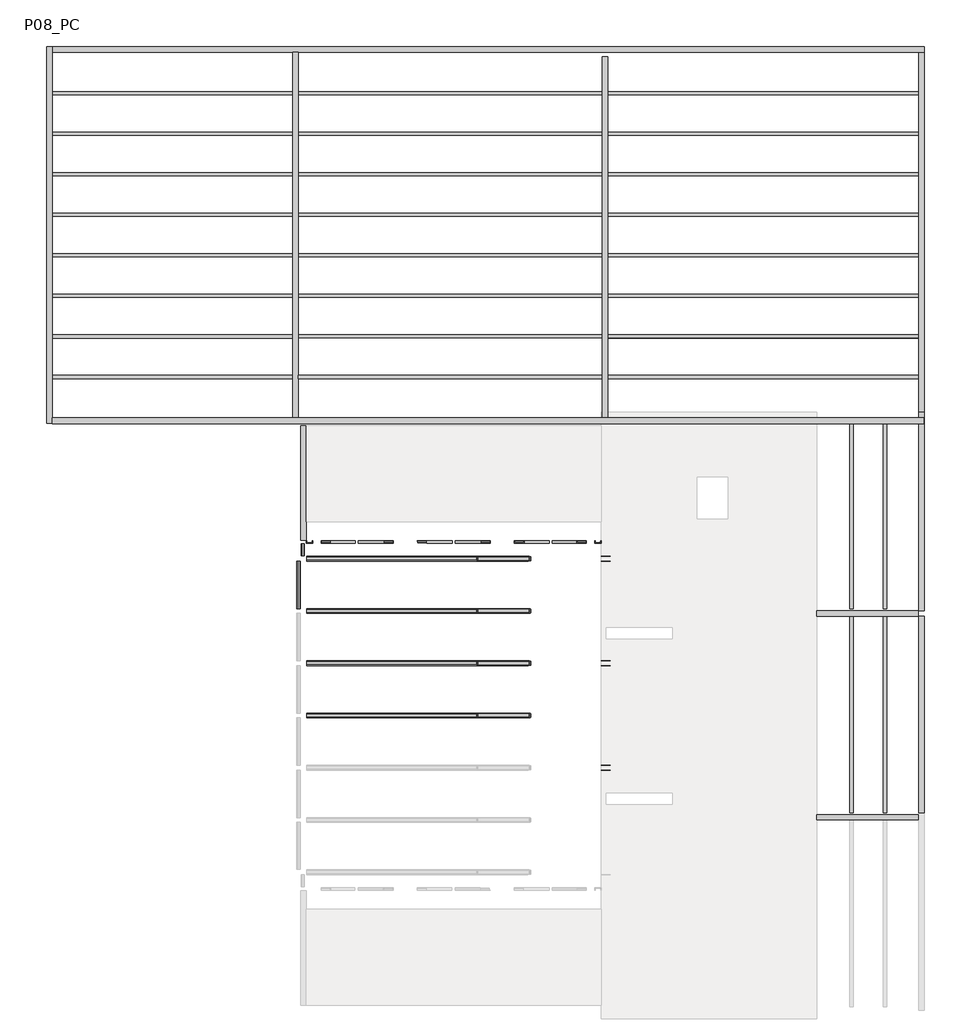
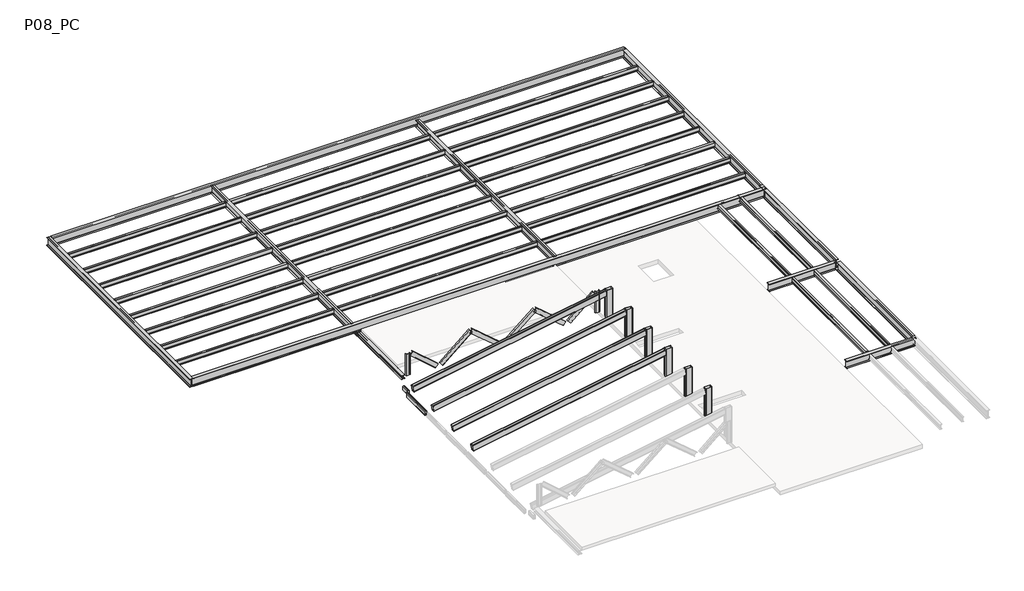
# One storey, part 2 of 2: 52 beams, 8 columns.
"""IFC4 building model written with IfcOpenShell, lengths in millimetres."""

from ifc_helpers import new_model, si_unit, origin, place, context, project, spatial, transform, mapped, element, save
from components import heb_180x180_6466fbd6, heb_180x180_753583c2, m_hss_rectangular_hss_200x100_5f17627f, m_hss_rectangular_hss_200x100_5a28828e, m_hss_rectangular_hss_300x150_f2dc2021, ub_universal_beams_ipe_400x180_227b6903, ub_universal_beams_ipe_400x180_42daf140, ub_universal_beams_ipe_400x180_a54351ab, ub_universal_beams_ipe_400x180_9dca1a58, ub_universal_beams_ipe_400x180_03f0e6ba, ub_universal_beams_ipe_400x180_5f841415, ub_universal_beams_ipe360x170_77c0ac8e, ub_universal_beams_ipe360x170_d35104d3, ub_universal_beams_ipe360x170_eaf81fbb, ub_universal_beams_ipe360x170_971bfe62, ub_universal_beams_ub240x100x40_e8e8a7e6, ub_universal_beams_ub240x100x40_b49092f3, ub_universal_beams_ub240x100x40_dda5167d, ub_universal_beams_ub240x100x40_5ad6f9c0, ub_universal_beams_ub240x100x40_2001c877, upn200x75_e305e8eb, upn200x75_de5bd99d, upn200x75_fda01a95, upn200x75_ef32aa81, rhs_rectangular_hollow_section_column_300x150x5_0rhs_4ea1d480, upn_200x75_9e4be795

model = new_model("IFC4")

# Units and contexts
model_context = context("Model", 3, world=origin())
ifc_project = project(units=[si_unit("LENGTHUNIT", "METRE", prefix="MILLI")], contexts=[model_context])

# Site, building, storey
site = spatial("IfcSite", under=ifc_project)
building = spatial("IfcBuilding", under=site)
storey = spatial("IfcBuildingStorey", under=building, Name="P08_PC", Elevation=37410.0)

# Beams
placement = place(None, origin())
heb_180x180_shape = heb_180x180_6466fbd6(model_context)
element("IfcBeam", 1, ObjectType="M_HP-Bearing Pile : HEB 180x180", at=placement, inside=storey, context=model_context, shape_type="MappedRepresentation", body=[
    mapped(heb_180x180_shape, transform((-18515.2932454, 13889.9904668, 37770.0), x_axis=(1.0, 0.0, 0.0), y_axis=(0.0, 1.0, 0.0), z_axis=(0.0, 0.0, 1.0))),
])
heb_180x180_2_shape = heb_180x180_753583c2(model_context)
element("IfcBeam", 2, ObjectType="M_HP-Bearing Pile : HEB 180x180", at=placement, inside=storey, context=model_context, shape_type="MappedRepresentation", body=[
    mapped(heb_180x180_2_shape, transform((-23130.357866, 11881.3970024, 37770.0), x_axis=(0.0, 1.0, 0.0), y_axis=(-1.0, 0.0, 0.0), z_axis=(0.0, 0.0, 1.0))),
])
m_hss_rectangular_hss_200x100_shape = m_hss_rectangular_hss_200x100_5f17627f(model_context)
element("IfcBeam", 3, ObjectType="M_HSS Rectangular : HSS 200x100", at=placement, inside=storey, context=model_context, shape_type="MappedRepresentation", body=[
    mapped(m_hss_rectangular_hss_200x100_shape, transform((-23290.3172019, 8679.8399046, 37310.0), x_axis=(-3.182446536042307e-08, -0.9999999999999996, 0.0), y_axis=(0.9999999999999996, -3.182446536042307e-08, 0.0), z_axis=(0.0, 0.0, 1.0))),
])
m_hss_rectangular_hss_200x100_2_shape = m_hss_rectangular_hss_200x100_5a28828e(model_context)
element("IfcBeam", 4, ObjectType="M_HSS Rectangular : HSS 200x100", at=placement, inside=storey, context=model_context, shape_type="MappedRepresentation", body=[
    mapped(m_hss_rectangular_hss_200x100_2_shape, transform((-23160.3171618, 9792.3965304, 37310.0), x_axis=(0.0, 1.0, 0.0), y_axis=(-1.0, 0.0, 0.0), z_axis=(0.0, 0.0, 1.0))),
])
m_hss_rectangular_hss_300x150_shape = m_hss_rectangular_hss_300x150_f2dc2021(model_context)
element("IfcBeam", 5, ObjectType="M_HSS Rectangular : HSS 300x150", at=placement, inside=storey, context=model_context, shape_type="MappedRepresentation", body=[
    mapped(m_hss_rectangular_hss_300x150_shape, transform((-18389.3310242, 9489.4137599, 38322.2684738), x_axis=(0.9848768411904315, -2.6177525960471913e-09, 0.1732559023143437), y_axis=(2.6579491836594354e-09, 1.0, 0.0), z_axis=(-0.17325590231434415, 4.6050538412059e-10, 0.9848768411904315))),
])
element("IfcBeam", 6, ObjectType="M_HSS Rectangular : HSS 300x150", at=placement, inside=storey, context=model_context, shape_type="MappedRepresentation", body=[
    mapped(m_hss_rectangular_hss_300x150_shape, transform((-18389.3310242, 6156.0806779, 38322.2684738), x_axis=(0.9848768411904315, -2.6177525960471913e-09, 0.1732559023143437), y_axis=(2.6579491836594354e-09, 1.0, 0.0), z_axis=(-0.17325590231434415, 4.6050538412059e-10, 0.9848768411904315))),
])
element("IfcBeam", 7, ObjectType="M_HSS Rectangular : HSS 300x150", at=placement, inside=storey, context=model_context, shape_type="MappedRepresentation", body=[
    mapped(m_hss_rectangular_hss_300x150_shape, transform((-18389.3310242, 4489.896059, 38322.2684738), x_axis=(0.9848768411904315, -2.6177525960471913e-09, 0.1732559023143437), y_axis=(2.6579491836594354e-09, 1.0, 0.0), z_axis=(-0.17325590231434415, 4.6050538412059e-10, 0.9848768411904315))),
])
element("IfcBeam", 8, ObjectType="M_HSS Rectangular : HSS 300x150", at=placement, inside=storey, context=model_context, shape_type="MappedRepresentation", body=[
    mapped(m_hss_rectangular_hss_300x150_shape, transform((-18389.3310242, 7822.7472201, 38322.2684738), x_axis=(0.9848768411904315, -2.6177525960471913e-09, 0.1732559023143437), y_axis=(2.6579491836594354e-09, 1.0, 0.0), z_axis=(-0.17325590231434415, 4.6050538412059e-10, 0.9848768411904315))),
])
ub_universal_beams_ipe_400x180_shape = ub_universal_beams_ipe_400x180_227b6903(model_context)
element("IfcBeam", 9, ObjectType="UB-Universal Beams : IPE 400x180", at=placement, inside=storey, context=model_context, shape_type="MappedRepresentation", body=[
    mapped(ub_universal_beams_ipe_400x180_shape, transform((-3415.7426146, 19865.1782084, 38060.0), x_axis=(0.0, -1.0, 0.0), y_axis=(1.0, 0.0, 0.0), z_axis=(0.0, 0.0, 1.0))),
])
ub_universal_beams_ipe_400x180_2_shape = ub_universal_beams_ipe_400x180_42daf140(model_context)
element("IfcBeam", 10, ObjectType="UB-Universal Beams : IPE 400x180", at=placement, inside=storey, context=model_context, shape_type="MappedRepresentation", body=[
    mapped(ub_universal_beams_ipe_400x180_2_shape, transform((-17328.0382717, 25739.8286321, 38060.0), x_axis=(1.0, 0.0, 0.0), y_axis=(0.0, 1.0, 0.0), z_axis=(0.0, 0.0, 1.0))),
])
ub_universal_beams_ipe_400x180_3_shape = ub_universal_beams_ipe_400x180_a54351ab(model_context)
element("IfcBeam", 11, ObjectType="UB-Universal Beams : IPE 400x180", at=placement, inside=storey, context=model_context, shape_type="MappedRepresentation", body=[
    mapped(ub_universal_beams_ipe_400x180_3_shape, transform((-31240.3339287, 19814.9095495, 38060.0), x_axis=(0.0, -1.0, 0.0), y_axis=(1.0, 0.0, 0.0), z_axis=(0.0, 0.0, 1.0))),
])
ub_universal_beams_ipe_400x180_4_shape = ub_universal_beams_ipe_400x180_9dca1a58(model_context)
element("IfcBeam", 12, ObjectType="UB-Universal Beams : IPE 400x180", at=placement, inside=storey, context=model_context, shape_type="MappedRepresentation", body=[
    mapped(ub_universal_beams_ipe_400x180_4_shape, transform((-3415.7426146, 4565.4193662, 38060.0), x_axis=(0.0, -1.0, 0.0), y_axis=(1.0, 0.0, 0.0), z_axis=(0.0, 0.0, 1.0))),
])
ub_universal_beams_ipe_400x180_5_shape = ub_universal_beams_ipe_400x180_03f0e6ba(model_context)
element("IfcBeam", 13, ObjectType="UB-Universal Beams : IPE 400x180", at=placement, inside=storey, context=model_context, shape_type="MappedRepresentation", body=[
    mapped(ub_universal_beams_ipe_400x180_5_shape, transform((-17328.0382717, 13889.9904668, 38060.0), x_axis=(1.0, 0.0, 0.0), y_axis=(0.0, 1.0, 0.0), z_axis=(0.0, 0.0, 1.0))),
])
ub_universal_beams_ipe_400x180_6_shape = ub_universal_beams_ipe_400x180_5f841415(model_context)
element("IfcBeam", 14, ObjectType="UB-Universal Beams : IPE 400x180", at=placement, inside=storey, context=model_context, shape_type="MappedRepresentation", body=[
    mapped(ub_universal_beams_ipe_400x180_6_shape, transform((-3415.7426146, 10865.4735715, 38060.0), x_axis=(0.0, 1.0, 0.0), y_axis=(-1.0, 0.0, 0.0), z_axis=(0.0, 0.0, 1.0))),
])
ub_universal_beams_ipe360x170_shape = ub_universal_beams_ipe360x170_77c0ac8e(model_context)
element("IfcBeam", 15, ObjectType="UB-Universal Beams : IPE360x170", at=placement, inside=storey, context=model_context, shape_type="MappedRepresentation", body=[
    mapped(ub_universal_beams_ipe360x170_shape, transform((-23390.3339287, 19952.788817, 38080.0), x_axis=(0.0, -1.0, 0.0), y_axis=(1.0, 0.0, 0.0), z_axis=(0.0, 0.0, 1.0))),
])
ub_universal_beams_ipe360x170_2_shape = ub_universal_beams_ipe360x170_d35104d3(model_context)
element("IfcBeam", 16, ObjectType="UB-Universal Beams : IPE360x170", at=placement, inside=storey, context=model_context, shape_type="MappedRepresentation", body=[
    mapped(ub_universal_beams_ipe360x170_2_shape, transform((-13515.29311, 19837.922056, 38080.0), x_axis=(0.0, -1.0, 0.0), y_axis=(1.0, 0.0, 0.0), z_axis=(0.0, 0.0, 1.0))),
])
ub_universal_beams_ipe360x170_3_shape = ub_universal_beams_ipe360x170_eaf81fbb(model_context)
element("IfcBeam", 17, ObjectType="UB-Universal Beams : IPE360x170", at=placement, inside=storey, context=model_context, shape_type="MappedRepresentation", body=[
    mapped(ub_universal_beams_ipe360x170_3_shape, transform((-5171.880656, 1240.0775206, 38080.0), x_axis=(1.0, 0.0, 0.0), y_axis=(0.0, 1.0, 0.0), z_axis=(0.0, 0.0, 1.0))),
])
ub_universal_beams_ipe360x170_4_shape = ub_universal_beams_ipe360x170_971bfe62(model_context)
element("IfcBeam", 18, ObjectType="UB-Universal Beams : IPE360x170", at=placement, inside=storey, context=model_context, shape_type="MappedRepresentation", body=[
    mapped(ub_universal_beams_ipe360x170_4_shape, transform((-5090.5179756, 7740.4193662, 38080.0), x_axis=(1.0, 0.0, 0.0), y_axis=(0.0, 1.0, 0.0), z_axis=(0.0, 0.0, 1.0))),
])
ub_universal_beams_ub240x100x40_shape = ub_universal_beams_ub240x100x40_e8e8a7e6(model_context)
element("IfcBeam", 19, ObjectType="UB-Universal Beams : UB240x100x40", at=placement, inside=storey, context=model_context, shape_type="MappedRepresentation", body=[
    mapped(ub_universal_beams_ub240x100x40_shape, transform((-5648.154421, 10940.60625, 38140.0), x_axis=(-1.2454712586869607e-09, -1.0, 0.0), y_axis=(1.0, -1.2454712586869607e-09, 0.0), z_axis=(0.0, 0.0, 1.0))),
])
element("IfcBeam", 20, ObjectType="UB-Universal Beams : UB240x100x40", at=placement, inside=storey, context=model_context, shape_type="MappedRepresentation", body=[
    mapped(ub_universal_beams_ub240x100x40_shape, transform((-4581.4877543, 10940.60625, 38140.0), x_axis=(-1.2454711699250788e-09, -1.0, 0.0), y_axis=(1.0, -1.2454711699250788e-09, 0.0), z_axis=(0.0, 0.0, 1.0))),
])
ub_universal_beams_ub240x100x40_2_shape = ub_universal_beams_ub240x100x40_b49092f3(model_context)
element("IfcBeam", 21, ObjectType="UB-Universal Beams : UB240x100x40", at=placement, inside=storey, context=model_context, shape_type="MappedRepresentation", body=[
    mapped(ub_universal_beams_ub240x100x40_2_shape, transform((-18452.8135193, 15288.5987554, 38140.0), x_axis=(1.0, 0.0, 0.0), y_axis=(0.0, 1.0, 0.0), z_axis=(0.0, 0.0, 1.0))),
])
element("IfcBeam", 22, ObjectType="UB-Universal Beams : UB240x100x40", at=placement, inside=storey, context=model_context, shape_type="MappedRepresentation", body=[
    mapped(ub_universal_beams_ub240x100x40_2_shape, transform((-18452.8135193, 16581.8996886, 38140.0), x_axis=(1.0, 0.0, 0.0), y_axis=(0.0, 1.0, 0.0), z_axis=(0.0, 0.0, 1.0))),
])
element("IfcBeam", 23, ObjectType="UB-Universal Beams : UB240x100x40", at=placement, inside=storey, context=model_context, shape_type="MappedRepresentation", body=[
    mapped(ub_universal_beams_ub240x100x40_2_shape, transform((-18452.8135193, 17875.2006217, 38140.0), x_axis=(1.0, 0.0, 0.0), y_axis=(0.0, 1.0, 0.0), z_axis=(0.0, 0.0, 1.0))),
])
element("IfcBeam", 24, ObjectType="UB-Universal Beams : UB240x100x40", at=placement, inside=storey, context=model_context, shape_type="MappedRepresentation", body=[
    mapped(ub_universal_beams_ub240x100x40_2_shape, transform((-18452.8135193, 19168.5015549, 38140.0), x_axis=(1.0, 0.0, 0.0), y_axis=(0.0, 1.0, 0.0), z_axis=(0.0, 0.0, 1.0))),
])
element("IfcBeam", 25, ObjectType="UB-Universal Beams : UB240x100x40", at=placement, inside=storey, context=model_context, shape_type="MappedRepresentation", body=[
    mapped(ub_universal_beams_ub240x100x40_2_shape, transform((-18452.8135193, 20461.802488, 38140.0), x_axis=(1.0, 0.0, 0.0), y_axis=(0.0, 1.0, 0.0), z_axis=(0.0, 0.0, 1.0))),
])
element("IfcBeam", 26, ObjectType="UB-Universal Beams : UB240x100x40", at=placement, inside=storey, context=model_context, shape_type="MappedRepresentation", body=[
    mapped(ub_universal_beams_ub240x100x40_2_shape, transform((-18452.8135193, 21755.1034212, 38140.0), x_axis=(1.0, 0.0, 0.0), y_axis=(0.0, 1.0, 0.0), z_axis=(0.0, 0.0, 1.0))),
])
element("IfcBeam", 27, ObjectType="UB-Universal Beams : UB240x100x40", at=placement, inside=storey, context=model_context, shape_type="MappedRepresentation", body=[
    mapped(ub_universal_beams_ub240x100x40_2_shape, transform((-18452.8135193, 23048.4043543, 38140.0), x_axis=(1.0, 0.0, 0.0), y_axis=(0.0, 1.0, 0.0), z_axis=(0.0, 0.0, 1.0))),
])
element("IfcBeam", 28, ObjectType="UB-Universal Beams : UB240x100x40", at=placement, inside=storey, context=model_context, shape_type="MappedRepresentation", body=[
    mapped(ub_universal_beams_ub240x100x40_2_shape, transform((-18452.8135193, 24341.7052875, 38140.0), x_axis=(1.0, 0.0, 0.0), y_axis=(0.0, 1.0, 0.0), z_axis=(0.0, 0.0, 1.0))),
])
ub_universal_beams_ub240x100x40_3_shape = ub_universal_beams_ub240x100x40_dda5167d(model_context)
element("IfcBeam", 29, ObjectType="UB-Universal Beams : UB240x100x40", at=placement, inside=storey, context=model_context, shape_type="MappedRepresentation", body=[
    mapped(ub_universal_beams_ub240x100x40_3_shape, transform((-8465.5178623, 15288.3367262, 38140.0), x_axis=(1.0, 0.0, 0.0), y_axis=(0.0, 1.0, 0.0), z_axis=(0.0, 0.0, 1.0))),
])
element("IfcBeam", 30, ObjectType="UB-Universal Beams : UB240x100x40", at=placement, inside=storey, context=model_context, shape_type="MappedRepresentation", body=[
    mapped(ub_universal_beams_ub240x100x40_3_shape, transform((-8465.5178623, 16581.6376593, 38140.0), x_axis=(1.0, 0.0, 0.0), y_axis=(0.0, 1.0, 0.0), z_axis=(0.0, 0.0, 1.0))),
])
element("IfcBeam", 31, ObjectType="UB-Universal Beams : UB240x100x40", at=placement, inside=storey, context=model_context, shape_type="MappedRepresentation", body=[
    mapped(ub_universal_beams_ub240x100x40_3_shape, transform((-8465.5178623, 17874.9385925, 38140.0), x_axis=(1.0, 0.0, 0.0), y_axis=(0.0, 1.0, 0.0), z_axis=(0.0, 0.0, 1.0))),
])
element("IfcBeam", 32, ObjectType="UB-Universal Beams : UB240x100x40", at=placement, inside=storey, context=model_context, shape_type="MappedRepresentation", body=[
    mapped(ub_universal_beams_ub240x100x40_3_shape, transform((-8465.5178623, 19168.2395256, 38140.0), x_axis=(1.0, 0.0, 0.0), y_axis=(0.0, 1.0, 0.0), z_axis=(0.0, 0.0, 1.0))),
])
element("IfcBeam", 33, ObjectType="UB-Universal Beams : UB240x100x40", at=placement, inside=storey, context=model_context, shape_type="MappedRepresentation", body=[
    mapped(ub_universal_beams_ub240x100x40_3_shape, transform((-8465.5178623, 20461.5404588, 38140.0), x_axis=(1.0, 0.0, 0.0), y_axis=(0.0, 1.0, 0.0), z_axis=(0.0, 0.0, 1.0))),
])
element("IfcBeam", 34, ObjectType="UB-Universal Beams : UB240x100x40", at=placement, inside=storey, context=model_context, shape_type="MappedRepresentation", body=[
    mapped(ub_universal_beams_ub240x100x40_3_shape, transform((-8465.5178623, 21754.8413919, 38140.0), x_axis=(1.0, 0.0, 0.0), y_axis=(0.0, 1.0, 0.0), z_axis=(0.0, 0.0, 1.0))),
])
element("IfcBeam", 35, ObjectType="UB-Universal Beams : UB240x100x40", at=placement, inside=storey, context=model_context, shape_type="MappedRepresentation", body=[
    mapped(ub_universal_beams_ub240x100x40_3_shape, transform((-8465.5178623, 23048.1423251, 38140.0), x_axis=(1.0, 0.0, 0.0), y_axis=(0.0, 1.0, 0.0), z_axis=(0.0, 0.0, 1.0))),
])
element("IfcBeam", 36, ObjectType="UB-Universal Beams : UB240x100x40", at=placement, inside=storey, context=model_context, shape_type="MappedRepresentation", body=[
    mapped(ub_universal_beams_ub240x100x40_3_shape, transform((-8465.5178623, 24341.4432582, 38140.0), x_axis=(1.0, 0.0, 0.0), y_axis=(0.0, 1.0, 0.0), z_axis=(0.0, 0.0, 1.0))),
])
ub_universal_beams_ub240x100x40_4_shape = ub_universal_beams_ub240x100x40_5ad6f9c0(model_context)
element("IfcBeam", 37, ObjectType="UB-Universal Beams : UB240x100x40", at=placement, inside=storey, context=model_context, shape_type="MappedRepresentation", body=[
    mapped(ub_universal_beams_ub240x100x40_4_shape, transform((-27315.3339287, 24341.3069696, 38140.0), x_axis=(1.0, 0.0, 0.0), y_axis=(0.0, 1.0, 0.0), z_axis=(0.0, 0.0, 1.0))),
])
element("IfcBeam", 38, ObjectType="UB-Universal Beams : UB240x100x40", at=placement, inside=storey, context=model_context, shape_type="MappedRepresentation", body=[
    mapped(ub_universal_beams_ub240x100x40_4_shape, transform((-27315.3339287, 23048.0060365, 38140.0), x_axis=(1.0, 0.0, 0.0), y_axis=(0.0, 1.0, 0.0), z_axis=(0.0, 0.0, 1.0))),
])
element("IfcBeam", 39, ObjectType="UB-Universal Beams : UB240x100x40", at=placement, inside=storey, context=model_context, shape_type="MappedRepresentation", body=[
    mapped(ub_universal_beams_ub240x100x40_4_shape, transform((-27315.3339287, 21754.7051033, 38140.0), x_axis=(1.0, 0.0, 0.0), y_axis=(0.0, 1.0, 0.0), z_axis=(0.0, 0.0, 1.0))),
])
element("IfcBeam", 40, ObjectType="UB-Universal Beams : UB240x100x40", at=placement, inside=storey, context=model_context, shape_type="MappedRepresentation", body=[
    mapped(ub_universal_beams_ub240x100x40_4_shape, transform((-27315.3339287, 20461.4041702, 38140.0), x_axis=(1.0, 0.0, 0.0), y_axis=(0.0, 1.0, 0.0), z_axis=(0.0, 0.0, 1.0))),
])
element("IfcBeam", 41, ObjectType="UB-Universal Beams : UB240x100x40", at=placement, inside=storey, context=model_context, shape_type="MappedRepresentation", body=[
    mapped(ub_universal_beams_ub240x100x40_4_shape, transform((-27315.3339287, 19168.103237, 38140.0), x_axis=(1.0, 0.0, 0.0), y_axis=(0.0, 1.0, 0.0), z_axis=(0.0, 0.0, 1.0))),
])
element("IfcBeam", 42, ObjectType="UB-Universal Beams : UB240x100x40", at=placement, inside=storey, context=model_context, shape_type="MappedRepresentation", body=[
    mapped(ub_universal_beams_ub240x100x40_4_shape, transform((-27315.3339287, 17874.8023039, 38140.0), x_axis=(1.0, 0.0, 0.0), y_axis=(0.0, 1.0, 0.0), z_axis=(0.0, 0.0, 1.0))),
])
element("IfcBeam", 43, ObjectType="UB-Universal Beams : UB240x100x40", at=placement, inside=storey, context=model_context, shape_type="MappedRepresentation", body=[
    mapped(ub_universal_beams_ub240x100x40_4_shape, transform((-27315.3339287, 16581.5013707, 38140.0), x_axis=(1.0, 0.0, 0.0), y_axis=(0.0, 1.0, 0.0), z_axis=(0.0, 0.0, 1.0))),
])
element("IfcBeam", 44, ObjectType="UB-Universal Beams : UB240x100x40", at=placement, inside=storey, context=model_context, shape_type="MappedRepresentation", body=[
    mapped(ub_universal_beams_ub240x100x40_4_shape, transform((-27315.3339287, 15288.2004376, 38140.0), x_axis=(1.0, 0.0, 0.0), y_axis=(0.0, 1.0, 0.0), z_axis=(0.0, 0.0, 1.0))),
])
ub_universal_beams_ub240x100x40_5_shape = ub_universal_beams_ub240x100x40_2001c877(model_context)
element("IfcBeam", 45, ObjectType="UB-Universal Beams : UB240x100x40", at=placement, inside=storey, context=model_context, shape_type="MappedRepresentation", body=[
    mapped(ub_universal_beams_ub240x100x40_5_shape, transform((-5648.1544208, 4565.3811219, 38140.0), x_axis=(-1.245471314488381e-09, -1.0, 0.0), y_axis=(1.0, -1.245471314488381e-09, 0.0), z_axis=(0.0, 0.0, 1.0))),
])
element("IfcBeam", 46, ObjectType="UB-Universal Beams : UB240x100x40", at=placement, inside=storey, context=model_context, shape_type="MappedRepresentation", body=[
    mapped(ub_universal_beams_ub240x100x40_5_shape, transform((-4581.4877541, 4565.3811219, 38140.0), x_axis=(-1.2454712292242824e-09, -1.0, 0.0), y_axis=(1.0, -1.2454712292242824e-09, 0.0), z_axis=(0.0, 0.0, 1.0))),
])
upn200x75_shape = upn200x75_e305e8eb(model_context)
element("IfcBeam", 47, ObjectType="M_MC Shapes : UPN200x75", at=placement, inside=storey, context=model_context, shape_type="MappedRepresentation", body=[
    mapped(upn200x75_shape, transform((-20602.137635, 10001.2791605, 38461.0568246), x_axis=(0.7654444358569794, 1.1576552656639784e-08, 0.6435019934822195), y_axis=(1.512396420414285e-08, -0.9999999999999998, 0.0), z_axis=(0.6435019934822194, 9.732303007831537e-09, -0.7654444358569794))),
])
element("IfcBeam", 48, ObjectType="M_MC Shapes : UPN200x75", at=placement, inside=storey, context=model_context, shape_type="MappedRepresentation", body=[
    mapped(upn200x75_shape, transform((-17504.4140986, 10001.2791604, 38461.0568246), x_axis=(0.7654444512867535, 1.157325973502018e-08, 0.6435019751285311), y_axis=(1.511966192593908e-08, -0.9999999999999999, 0.0), z_axis=(0.643501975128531, 9.729534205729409e-09, -0.7654444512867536))),
])
upn200x75_2_shape = upn200x75_de5bd99d(model_context)
element("IfcBeam", 49, ObjectType="M_MC Shapes : UPN200x75", at=placement, inside=storey, context=model_context, shape_type="MappedRepresentation", body=[
    mapped(upn200x75_2_shape, transform((-19172.2256212, 10001.2791604, 38461.0568246), x_axis=(-0.7654444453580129, 1.1576579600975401e-08, 0.6435019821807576), y_axis=(1.5123995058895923e-08, 1.0, 0.0), z_axis=(-0.6435019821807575, 9.732318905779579e-09, -0.7654444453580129))),
])
element("IfcBeam", 50, ObjectType="M_MC Shapes : UPN200x75", at=placement, inside=storey, context=model_context, shape_type="MappedRepresentation", body=[
    mapped(upn200x75_2_shape, transform((-16074.5020921, 10001.2791604, 38461.0568246), x_axis=(-0.7654444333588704, 1.1573286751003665e-08, 0.6435019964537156), y_axis=(1.511969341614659e-08, 0.9999999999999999, 0.0), z_axis=(-0.6435019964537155, 9.729551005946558e-09, -0.7654444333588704))),
])
upn200x75_3_shape = upn200x75_fda01a95(model_context)
element("IfcBeam", 51, ObjectType="M_MC Shapes : UPN200x75", at=placement, inside=storey, context=model_context, shape_type="MappedRepresentation", body=[
    mapped(upn200x75_3_shape, transform((-14432.3848848, 10001.2791603, 38461.0568246), x_axis=(0.7554083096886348, 1.1791228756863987e-08, 0.6552543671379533), y_axis=(1.560908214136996e-08, -1.0, 0.0), z_axis=(0.6552543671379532, 1.022792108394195e-08, -0.7554083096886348))),
])
upn200x75_4_shape = upn200x75_ef32aa81(model_context)
element("IfcBeam", 52, ObjectType="M_MC Shapes : UPN200x75", at=placement, inside=storey, context=model_context, shape_type="MappedRepresentation", body=[
    mapped(upn200x75_4_shape, transform((-22244.2548132, 10001.2791603, 38461.0568246), x_axis=(-0.7554083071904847, 1.1791255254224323e-08, 0.6552543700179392), y_axis=(1.5609113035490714e-08, 1.0, 0.0), z_axis=(-0.6552543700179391, 1.0227937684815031e-08, -0.7554083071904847))),
])

# Columns
rhs_rectangular_hollow_section_column_300x150x5_0rhs_shape = rhs_rectangular_hollow_section_column_300x150x5_0rhs_4ea1d480(model_context)
element("IfcColumn", 53, ObjectType="RHS-Rectangular Hollow Section-Column : 300x150x5.0RHS", at=placement, inside=storey, context=model_context, shape_type="MappedRepresentation", body=[
    mapped(rhs_rectangular_hollow_section_column_300x150x5_0rhs_shape, transform((-13490.2932753, 6156.0806907, 0.0), x_axis=(3.1824473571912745e-08, 0.9999999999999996, 0.0), y_axis=(-0.9999999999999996, 3.1824473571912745e-08, 0.0), z_axis=(0.0, 0.0, 1.0))),
])
element("IfcColumn", 54, ObjectType="RHS-Rectangular Hollow Section-Column : 300x150x5.0RHS", at=placement, inside=storey, context=model_context, shape_type="MappedRepresentation", body=[
    mapped(rhs_rectangular_hollow_section_column_300x150x5_0rhs_shape, transform((-13490.2932753, 7822.7472328, 0.0), x_axis=(3.1824473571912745e-08, 0.9999999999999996, 0.0), y_axis=(-0.9999999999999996, 3.1824473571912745e-08, 0.0), z_axis=(0.0, 0.0, 1.0))),
])
element("IfcColumn", 55, ObjectType="RHS-Rectangular Hollow Section-Column : 300x150x5.0RHS", at=placement, inside=storey, context=model_context, shape_type="MappedRepresentation", body=[
    mapped(rhs_rectangular_hollow_section_column_300x150x5_0rhs_shape, transform((-13490.2932753, 9489.4137727, 0.0), x_axis=(3.1824473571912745e-08, 0.9999999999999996, 0.0), y_axis=(-0.9999999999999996, 3.1824473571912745e-08, 0.0), z_axis=(0.0, 0.0, 1.0))),
])
element("IfcColumn", 56, ObjectType="RHS-Rectangular Hollow Section-Column : 300x150x5.0RHS", at=placement, inside=storey, context=model_context, shape_type="MappedRepresentation", body=[
    mapped(rhs_rectangular_hollow_section_column_300x150x5_0rhs_shape, transform((-13490.2932753, 4489.8960717, 0.0), x_axis=(3.1824473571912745e-08, 0.9999999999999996, 0.0), y_axis=(-0.9999999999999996, 3.1824473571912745e-08, 0.0), z_axis=(0.0, 0.0, 1.0))),
])
element("IfcColumn", 57, ObjectType="RHS-Rectangular Hollow Section-Column : 300x150x5.0RHS", at=placement, inside=storey, context=model_context, shape_type="MappedRepresentation", body=[
    mapped(rhs_rectangular_hollow_section_column_300x150x5_0rhs_shape, transform((-13490.2932753, 2822.7476101, 0.0), x_axis=(3.1824473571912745e-08, 0.9999999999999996, 0.0), y_axis=(-0.9999999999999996, 3.1824473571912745e-08, 0.0), z_axis=(0.0, 0.0, 1.0))),
])
element("IfcColumn", 58, ObjectType="RHS-Rectangular Hollow Section-Column : 300x150x5.0RHS", at=placement, inside=storey, context=model_context, shape_type="MappedRepresentation", body=[
    mapped(rhs_rectangular_hollow_section_column_300x150x5_0rhs_shape, transform((-13490.2932753, 1156.0810714, 0.0), x_axis=(3.1824473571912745e-08, 0.9999999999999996, 0.0), y_axis=(-0.9999999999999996, 3.1824473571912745e-08, 0.0), z_axis=(0.0, 0.0, 1.0))),
])
upn_200x75_shape = upn_200x75_9e4be795(model_context)
element("IfcColumn", 59, ObjectType="M_MC Shapes-Column : UPN 200x75", at=placement, inside=storey, context=model_context, shape_type="MappedRepresentation", body=[
    mapped(upn_200x75_shape, transform((-13740.321643, 10016.7789198, 0.0), x_axis=(3.1229579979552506e-08, 0.9999999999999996, 0.0), y_axis=(-0.9999999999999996, 3.1229579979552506e-08, 0.0), z_axis=(0.0, 0.0, 1.0))),
])
element("IfcColumn", 60, ObjectType="M_MC Shapes-Column : UPN 200x75", at=placement, inside=storey, context=model_context, shape_type="MappedRepresentation", body=[
    mapped(upn_200x75_shape, transform((-22940.3175218, 10016.7789198, 0.0), x_axis=(3.1229579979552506e-08, 0.9999999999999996, 0.0), y_axis=(-0.9999999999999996, 3.1229579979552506e-08, 0.0), z_axis=(0.0, 0.0, 1.0))),
])

save(model, "model.ifc")
